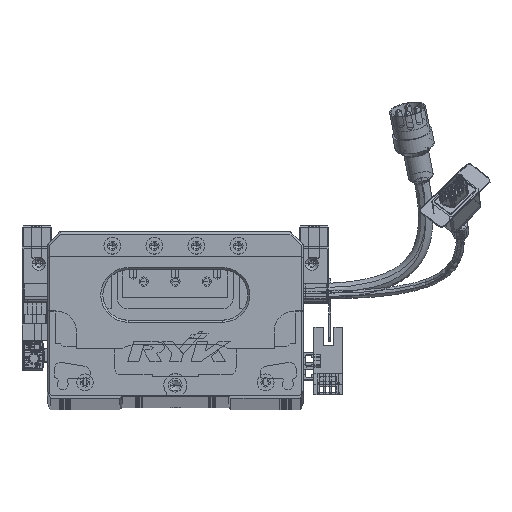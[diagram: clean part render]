
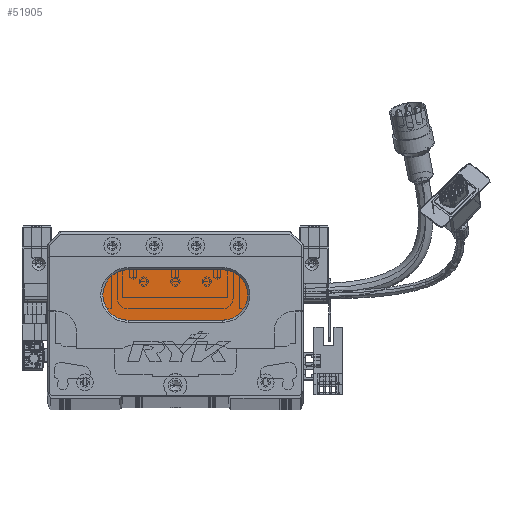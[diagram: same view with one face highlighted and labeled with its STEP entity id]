
A CAD part, top view. The second image highlights one B-rep face of the part: STEP entity #51905.
In plain terms, the highlighted planar face has unit normal (0, 0, 1) as drawn and (0, 0, -1) by its records, which use the part's own axes.
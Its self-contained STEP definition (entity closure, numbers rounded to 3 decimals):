
#136 = CARTESIAN_POINT ( 'NONE',  ( 83.5, 60., 13. ) ) ;
#1627 = CARTESIAN_POINT ( 'NONE',  ( 38.5, 60., 13. ) ) ;
#2462 = AXIS2_PLACEMENT_3D ( 'NONE', #22103, #21212, #96213 ) ;
#8842 = EDGE_CURVE ( 'NONE', #119126, #113843, #126948, .T. ) ;
#14553 = FACE_OUTER_BOUND ( 'NONE', #34203, .T. ) ;
#17729 = CARTESIAN_POINT ( 'NONE',  ( 38.5, 48., 13. ) ) ;
#21212 = DIRECTION ( 'NONE',  ( 0., 0., -1. ) ) ;
#21269 = EDGE_CURVE ( 'NONE', #113843, #75408, #84083, .T. ) ;
#22103 = CARTESIAN_POINT ( 'NONE',  ( 83.5, 48., 13. ) ) ;
#27075 = AXIS2_PLACEMENT_3D ( 'NONE', #119312, #57295, #45225 ) ;
#27713 = CARTESIAN_POINT ( 'NONE',  ( 38.5, 48., 13. ) ) ;
#31628 = VERTEX_POINT ( 'NONE', #136 ) ;
#31916 = CARTESIAN_POINT ( 'NONE',  ( 83.5, 60., 13. ) ) ;
#34203 = EDGE_LOOP ( 'NONE', ( #74753, #96629, #66872, #83260, #87407 ) ) ;
#45225 = DIRECTION ( 'NONE',  ( -1., 0., 0. ) ) ;
#47411 = CARTESIAN_POINT ( 'NONE',  ( 38.5, 36., 13. ) ) ;
#49202 = DIRECTION ( 'NONE',  ( -1., 0., 0. ) ) ;
#51905 = ADVANCED_FACE ( 'NONE', ( #14553 ), #118862, .T. ) ;
#55245 = CIRCLE ( 'NONE', #113636, 12. ) ;
#57295 = DIRECTION ( 'NONE',  ( 0., 0., -1. ) ) ;
#59704 = DIRECTION ( 'NONE',  ( -1., 0., 0. ) ) ;
#66872 = ORIENTED_EDGE ( 'NONE', *, *, #21269, .T. ) ;
#68010 = CARTESIAN_POINT ( 'NONE',  ( 26.5, 48., 13. ) ) ;
#74753 = ORIENTED_EDGE ( 'NONE', *, *, #112681, .T. ) ;
#75408 = VERTEX_POINT ( 'NONE', #68010 ) ;
#78858 = DIRECTION ( 'NONE',  ( -1., 0., 0. ) ) ;
#80116 = VECTOR ( 'NONE', #83833, 1000. ) ;
#80996 = DIRECTION ( 'NONE',  ( 0., 0., -1. ) ) ;
#83260 = ORIENTED_EDGE ( 'NONE', *, *, #115979, .T. ) ;
#83833 = DIRECTION ( 'NONE',  ( 1., 0., 0. ) ) ;
#84083 = CIRCLE ( 'NONE', #96465, 12. ) ;
#87407 = ORIENTED_EDGE ( 'NONE', *, *, #115796, .T. ) ;
#90800 = CARTESIAN_POINT ( 'NONE',  ( 83.5, 36., 13. ) ) ;
#96213 = DIRECTION ( 'NONE',  ( -1., 0., 0. ) ) ;
#96465 = AXIS2_PLACEMENT_3D ( 'NONE', #17729, #123305, #49202 ) ;
#96629 = ORIENTED_EDGE ( 'NONE', *, *, #8842, .T. ) ;
#97057 = VECTOR ( 'NONE', #78858, 1000. ) ;
#98333 = VERTEX_POINT ( 'NONE', #1627 ) ;
#112681 = EDGE_CURVE ( 'NONE', #31628, #119126, #113970, .T. ) ;
#113636 = AXIS2_PLACEMENT_3D ( 'NONE', #27713, #80996, #59704 ) ;
#113843 = VERTEX_POINT ( 'NONE', #47411 ) ;
#113970 = CIRCLE ( 'NONE', #2462, 12. ) ;
#114901 = LINE ( 'NONE', #31916, #80116 ) ;
#115796 = EDGE_CURVE ( 'NONE', #98333, #31628, #114901, .T. ) ;
#115979 = EDGE_CURVE ( 'NONE', #75408, #98333, #55245, .T. ) ;
#117290 = CARTESIAN_POINT ( 'NONE',  ( 83.5, 36., 13. ) ) ;
#118862 = PLANE ( 'NONE',  #27075 ) ;
#119126 = VERTEX_POINT ( 'NONE', #117290 ) ;
#119312 = CARTESIAN_POINT ( 'NONE',  ( 83.5, 48., 13. ) ) ;
#123305 = DIRECTION ( 'NONE',  ( 0., 0., -1. ) ) ;
#126948 = LINE ( 'NONE', #90800, #97057 ) ;
